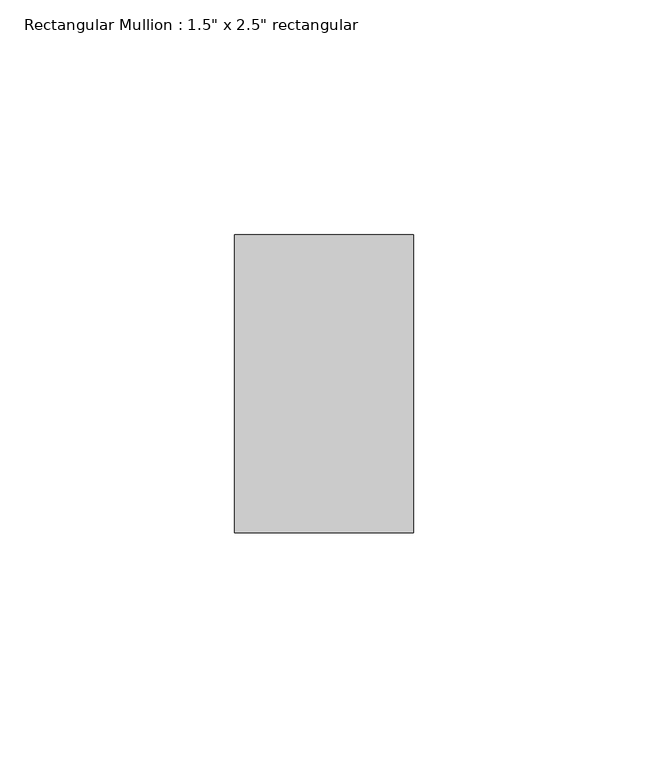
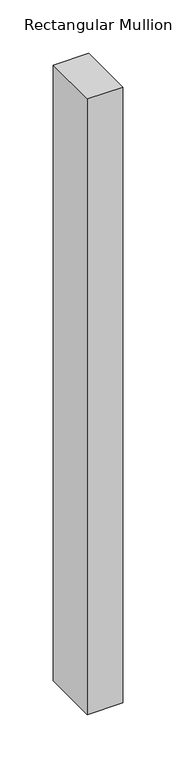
"""IFC4 building model written with IfcOpenShell, lengths in millimetres: member geometry."""

import ifcopenshell
import ifcopenshell.guid

model = None  # the IFC model being written
_history = None  # IfcOwnerHistory: only IFC2X3 demands one
_inside = {}  # id of a spatial element -> (the spatial element, [elements in it])
_under = {}  # id of a project, library or spatial element -> (it, [spatial elements below it])
_declared = {}  # id of a project -> (the project, [libraries it declares])
_typed = {}  # id of a type object -> (the type object, [elements of that type])
_made_of = {}  # id of a material, layer set ... -> (it, [elements and type objects made of it])


def new_model(schema):
    """Start an empty IFC model of exactly this schema.

    Asked for "IFC4X3", IfcOpenShell would pick the latest addendum, in which some entities
    have other attributes; the version numbers below select the first issue.
    IFC2X3 requires an IfcOwnerHistory on every rooted entity: one is made here for all.
    """
    global model, _history
    if schema == "IFC4X3":
        model = ifcopenshell.file(schema_version=(4, 3, 0, 0))
    else:
        model = ifcopenshell.file(schema=schema)
    _inside.clear()
    _under.clear()
    _declared.clear()
    _typed.clear()
    _made_of.clear()
    _history = None
    if model.schema == "IFC2X3":
        org = make("IfcOrganization", Name="unknown")
        user = make(
            "IfcPersonAndOrganization",
            ThePerson=make("IfcPerson", FamilyName="unknown"),
            TheOrganization=org,
        )
        app = make(
            "IfcApplication",
            ApplicationDeveloper=org,
            Version="unknown",
            ApplicationFullName="unknown",
            ApplicationIdentifier="unknown",
        )
        _history = make(
            "IfcOwnerHistory",
            OwningUser=user,
            OwningApplication=app,
            ChangeAction="ADDED",
            CreationDate=0,
        )
    return model


def make(cls, **values):
    """One entity of the class cls with the attributes given. An attribute that is None is left unset."""
    return model.create_entity(
        cls, **{name: value for name, value in values.items() if value is not None}
    )


def rooted(cls, **values):
    """An entity with a GlobalId (a new one), such as an element, a storey or a relation."""
    return make(cls, GlobalId=ifcopenshell.guid.new(), OwnerHistory=_history, **values)


def si_unit(unit_type, name, prefix=None):
    """IfcSIUnit, for example si_unit("LENGTHUNIT", "METRE", prefix="MILLI")."""
    return make("IfcSIUnit", UnitType=unit_type, Prefix=prefix, Name=name)


def assignment(units):
    """IfcUnitAssignment: the units of a project."""
    return None if units is None else make("IfcUnitAssignment", Units=units)


def point(xyz):
    """IfcCartesianPoint."""
    return None if xyz is None else make("IfcCartesianPoint", Coordinates=xyz)


def direction(xyz):
    """IfcDirection."""
    return None if xyz is None else make("IfcDirection", DirectionRatios=xyz)


def frame(location, z_axis=None, x_axis=None):
    """IfcAxis2Placement3D, a coordinate frame: its origin and axes. An axis left out is left unset."""
    return make(
        "IfcAxis2Placement3D",
        Location=point(location),
        Axis=direction(z_axis),
        RefDirection=direction(x_axis),
    )


def origin():
    """The frame at (0, 0, 0) with its axes left unset."""
    return frame((0.0, 0.0, 0.0))


def place(relative_to, where):
    """IfcLocalPlacement: puts the frame where relative to a parent placement (None: the world)."""
    return make(
        "IfcLocalPlacement", PlacementRelTo=relative_to, RelativePlacement=where
    )


def context(
    kind, dimensions, precision=None, world=None, true_north=None, identifier=None
):
    """IfcGeometricRepresentationContext, for example the 3D "Model" context."""
    return make(
        "IfcGeometricRepresentationContext",
        ContextIdentifier=identifier,
        ContextType=kind,
        CoordinateSpaceDimension=dimensions,
        Precision=precision,
        WorldCoordinateSystem=world,
        TrueNorth=true_north,
    )


def project(units=None, contexts=None):
    """IfcProject with its units and contexts."""
    return rooted(
        "IfcProject",
        Name="project",
        RepresentationContexts=contexts,
        UnitsInContext=assignment(units),
    )


def spatial(cls, under=None, at=None, **own):
    """A site, building, storey or space (cls), placed at a placement, below another one or the project."""
    s = rooted(cls, ObjectPlacement=at, **own)
    if under is not None:
        _under.setdefault(under.id(), (under, []))[1].append(s)
    return s


def polyline(points):
    """IfcPolyline through the points."""
    return make("IfcPolyline", Points=[point(p) for p in points])


def outline(outer, holes=None, kind="AREA"):
    """IfcArbitraryClosedProfileDef: a profile drawn as a closed curve; with holes, ...WithVoids."""
    if holes is None:
        return make("IfcArbitraryClosedProfileDef", ProfileType=kind, OuterCurve=outer)
    return make(
        "IfcArbitraryProfileDefWithVoids",
        ProfileType=kind,
        OuterCurve=outer,
        InnerCurves=holes,
    )


def extrude(swept, where, along, depth):
    """IfcExtrudedAreaSolid: the profile swept, set in the frame where, extruded along a direction by depth."""
    return make(
        "IfcExtrudedAreaSolid",
        SweptArea=swept,
        Position=where,
        ExtrudedDirection=direction(along),
        Depth=depth,
    )


def shape(context_of_items, identifier, shape_type, items):
    """IfcShapeRepresentation: the items that make up one representation, for example the "Body"."""
    return make(
        "IfcShapeRepresentation",
        ContextOfItems=context_of_items,
        RepresentationIdentifier=identifier,
        RepresentationType=shape_type,
        Items=items,
    )


def source(mapping_origin, context_of_items, identifier, shape_type, items):
    """IfcRepresentationMap: a shape defined once, which mapped items show again and again."""
    return make(
        "IfcRepresentationMap",
        MappingOrigin=mapping_origin,
        MappedRepresentation=shape(context_of_items, identifier, shape_type, items),
    )


def transform(
    local_origin,
    x_axis=None,
    y_axis=None,
    z_axis=None,
    scale=None,
    scale2=None,
    scale3=None,
    uniform=True,
):
    """IfcCartesianTransformationOperator3D, or its non-uniform kind. x_axis, y_axis, z_axis: its Axis1, 2, 3."""
    if uniform:
        return make(
            "IfcCartesianTransformationOperator3D",
            Axis1=direction(x_axis),
            Axis2=direction(y_axis),
            LocalOrigin=point(local_origin),
            Scale=scale,
            Axis3=direction(z_axis),
        )
    return make(
        "IfcCartesianTransformationOperator3DnonUniform",
        Axis1=direction(x_axis),
        Axis2=direction(y_axis),
        LocalOrigin=point(local_origin),
        Scale=scale,
        Axis3=direction(z_axis),
        Scale2=scale2,
        Scale3=scale3,
    )


def mapped(mapping_source, mapping_target):
    """IfcMappedItem: shows the shape of a source again, moved by a transform."""
    return make(
        "IfcMappedItem", MappingSource=mapping_source, MappingTarget=mapping_target
    )


def made_of(thing, what):
    """Note that an element or type object is made of a material, layer set ...; save() writes the relation."""
    if what is not None:
        _made_of.setdefault(what.id(), (what, []))[1].append(thing)
    return thing


def element(
    cls,
    number,
    at=None,
    inside=None,
    cuts=None,
    type_object=None,
    material=None,
    context=None,
    identifier="Body",
    shape_type=None,
    held_by="IfcProductDefinitionShape",
    body=None,
    shapes=None,
    **own,
):
    """One element of the class cls, such as IfcWall. Its Tag is "e" and its number.

    at: its placement. inside: the storey or other place that contains it. cuts: it is an
    opening in that element (IfcRelVoidsElement). A single representation is given by context,
    identifier, shape_type and body (its items); several are given by shapes. held_by: the class
    of the entity that holds the representations. save() writes the other relations.
    """
    e = rooted(cls, Tag="e%d" % number, ObjectPlacement=at, **own)
    if body is not None:
        shapes = [shape(context, identifier, shape_type, body)]
    if shapes is not None:
        e.Representation = make(held_by, Representations=shapes)
    if inside is not None:
        _inside.setdefault(inside.id(), (inside, []))[1].append(e)
    if cuts is not None:
        rooted(
            "IfcRelVoidsElement", RelatingBuildingElement=cuts, RelatedOpeningElement=e
        )
    if type_object is not None:
        _typed.setdefault(type_object.id(), (type_object, []))[1].append(e)
    return made_of(e, material)


def aggregate(whole, parts):
    """IfcRelAggregates: a whole, such as a stair, and the parts it consists of."""
    return rooted("IfcRelAggregates", RelatingObject=whole, RelatedObjects=parts)


def save(model, path):
    """Write the relations noted so far, then the file.

    IfcRelAggregates (storeys below a building ...), IfcRelContainedInSpatialStructure (elements
    in a storey), IfcRelDefinesByType, IfcRelAssociatesMaterial and IfcRelDeclares: one each for
    every whole, place, type object, material and project.
    """
    for whole, parts in _under.values():
        aggregate(whole, parts)
    for where, things in _inside.values():
        rooted(
            "IfcRelContainedInSpatialStructure",
            RelatedElements=things,
            RelatingStructure=where,
        )
    for kind, things in _typed.values():
        rooted("IfcRelDefinesByType", RelatedObjects=things, RelatingType=kind)
    for what, things in _made_of.values():
        rooted("IfcRelAssociatesMaterial", RelatedObjects=things, RelatingMaterial=what)
    for by, libraries in _declared.values():
        rooted("IfcRelDeclares", RelatingContext=by, RelatedDefinitions=libraries)
    model.write(path)


def member_f55f91ff(model_context):
    return source(origin(), model_context, "Body", "SweptSolid", [
        extrude(outline(polyline([(19.05, 31.75), (19.05, -31.75), (-19.05, -31.75), (-19.05, 31.75), (19.05, 31.75)])), frame((0.0, 0.0, -703.9908448), z_axis=(0.0, 0.0, 1.0), x_axis=(1.0, 0.0, 0.0)), (0.0, 0.0, 1.0), 703.9908448),
    ])


if __name__ == "__main__":
    model = new_model("IFC4")
    model_context = context("Model", 3, world=origin())
    ifc_project = project(units=[si_unit("LENGTHUNIT", "METRE", prefix="MILLI")], contexts=[model_context])
    site = spatial("IfcSite", under=ifc_project)
    building = spatial("IfcBuilding", under=site)
    placement = place(None, origin())
    member_shape = member_f55f91ff(model_context)
    element("IfcMember", 1, ObjectType="Rectangular Mullion : 1.5\" x 2.5\" rectangular", at=placement, inside=building, context=model_context, shape_type="MappedRepresentation", body=[
        mapped(member_shape, transform((0.0, 0.0, 0.0), x_axis=(1.0, 0.0, 0.0), y_axis=(0.0, 1.0, 0.0), z_axis=(0.0, 0.0, 1.0))),
    ])
    save(model, "model.ifc")
